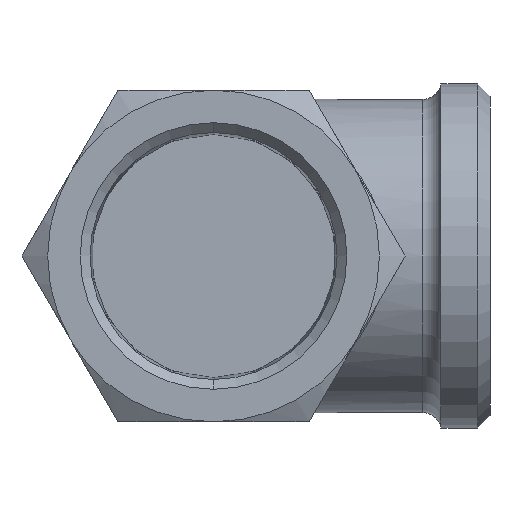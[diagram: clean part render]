
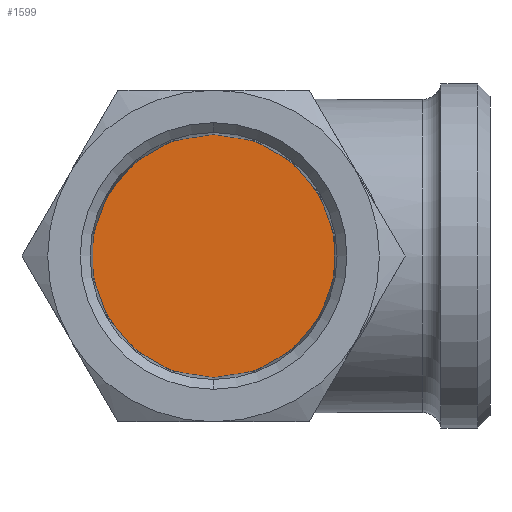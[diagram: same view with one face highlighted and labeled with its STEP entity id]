
A CAD part, left-side view. The second image highlights one B-rep face of the part: STEP entity #1599.
In plain terms, the highlighted planar face has unit normal (-1, 0, 0).
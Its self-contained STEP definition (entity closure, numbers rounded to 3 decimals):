
#118 = VERTEX_POINT ( 'NONE', #2353 ) ;
#294 = ORIENTED_EDGE ( 'NONE', *, *, #1685, .T. ) ;
#378 = AXIS2_PLACEMENT_3D ( 'NONE', #1922, #922, #2854 ) ;
#501 = ORIENTED_EDGE ( 'NONE', *, *, #2024, .T. ) ;
#507 = DIRECTION ( 'NONE',  ( -1., 0., 0. ) ) ;
#646 = DIRECTION ( 'NONE',  ( 0., 0., 1. ) ) ;
#711 = PLANE ( 'NONE',  #1413 ) ;
#858 = CARTESIAN_POINT ( 'NONE',  ( -76., 0., 0. ) ) ;
#902 = DIRECTION ( 'NONE',  ( -1., 0., 0. ) ) ;
#922 = DIRECTION ( 'NONE',  ( -1., 0., 0. ) ) ;
#1069 = CIRCLE ( 'NONE', #378, 19.8 ) ;
#1233 = EDGE_LOOP ( 'NONE', ( #294, #501 ) ) ;
#1413 = AXIS2_PLACEMENT_3D ( 'NONE', #2399, #507, #2801 ) ;
#1599 = ADVANCED_FACE ( 'NONE', ( #2384 ), #711, .T. ) ;
#1685 = EDGE_CURVE ( 'NONE', #118, #2017, #1069, .T. ) ;
#1922 = CARTESIAN_POINT ( 'NONE',  ( -76., 0., 0. ) ) ;
#2017 = VERTEX_POINT ( 'NONE', #3010 ) ;
#2024 = EDGE_CURVE ( 'NONE', #2017, #118, #2052, .T. ) ;
#2052 = CIRCLE ( 'NONE', #2646, 19.8 ) ;
#2353 = CARTESIAN_POINT ( 'NONE',  ( -76., 0., 19.8 ) ) ;
#2384 = FACE_OUTER_BOUND ( 'NONE', #1233, .T. ) ;
#2399 = CARTESIAN_POINT ( 'NONE',  ( -76., 19.8, 0. ) ) ;
#2646 = AXIS2_PLACEMENT_3D ( 'NONE', #858, #902, #646 ) ;
#2801 = DIRECTION ( 'NONE',  ( 0., 0., 1. ) ) ;
#2854 = DIRECTION ( 'NONE',  ( 0., 0., 1. ) ) ;
#3010 = CARTESIAN_POINT ( 'NONE',  ( -76., 0., -19.8 ) ) ;
